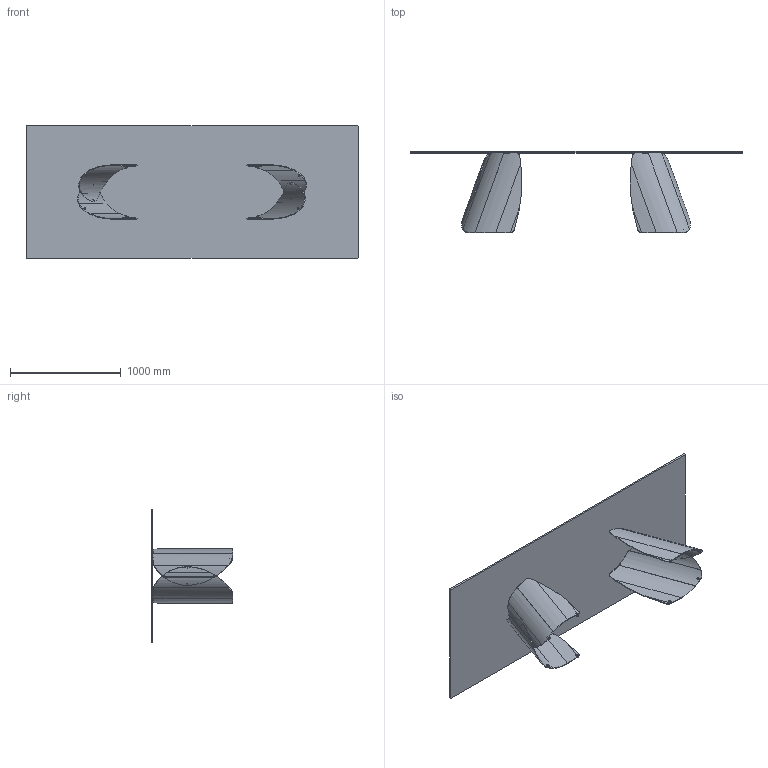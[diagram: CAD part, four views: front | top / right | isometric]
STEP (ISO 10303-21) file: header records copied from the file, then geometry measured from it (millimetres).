
FILE_DESCRIPTION (( 'STEP AP203' ), '1' );
FILE_NAME ('PA24G_Perla 300x120_Glass Rectangular.STEP', '2024-07-31T12:41:43', ( '' ), ( '' ), 'SwSTEP 2.0', 'SolidWorks 2022', '' );
FILE_SCHEMA (( 'CONFIG_CONTROL_DESIGN' ));
Length unit declared in the file: millimetre
Products named in the file (9): PIEDINO D.15 x H.8_filetto M6x11; PER000000_03-00-PERLA BUSSOLA PER PIEDE; C2XCRXX-00-Piani Rettangolari Cristallo_24 3000x1200; COLLO BASE PERLA PER000000 CON FERRAMENTA; PER000000-00-PERLA BASE GREZZA; PA24G_Perla 300x120_Glass Rectangular; PER000000_02-00-PERLA LAMIERA INTERNA; PER000000_01-00-PERLA LAMIERA ESTERNA; profilo U 9x7 bombato_L = 60mm
Assembly tree (16 placements, depth 4):
  PA24G_Perla 300x120_Glass Rectangular
    COLLO BASE PERLA PER000000 CON FERRAMENTA  x2
      PER000000-00-PERLA BASE GREZZA
        PER000000_01-00-PERLA LAMIERA ESTERNA
        PER000000_02-00-PERLA LAMIERA INTERNA
        PER000000_03-00-PERLA BUSSOLA PER PIEDE  x4
      PIEDINO D.15 x H.8_filetto M6x11
      profilo U 9x7 bombato_L = 60mm
    C2XCRXX-00-Piani Rettangolari Cristallo_24 3000x1200
Bounding box: 3000 x 736.5 x 1200 mm (x, y, z)
Volume: 63978622.8 mm3; surface area: 10723577.9 mm2
Topology: 33 solids, 33 shells, 476 faces, 1054 edges, 644 vertices
Faces by surface type: cylinder 160, bspline 130, plane 106, cone 48, torus 32
Entity records: 12246 total; most frequent: CARTESIAN_POINT 8171, ORIENTED_EDGE 702, DIRECTION 438, EDGE_CURVE 351, VERTEX_POINT 217, AXIS2_PLACEMENT_3D 162, EDGE_LOOP 160, B_SPLINE_CURVE_WITH_KNOTS 153
